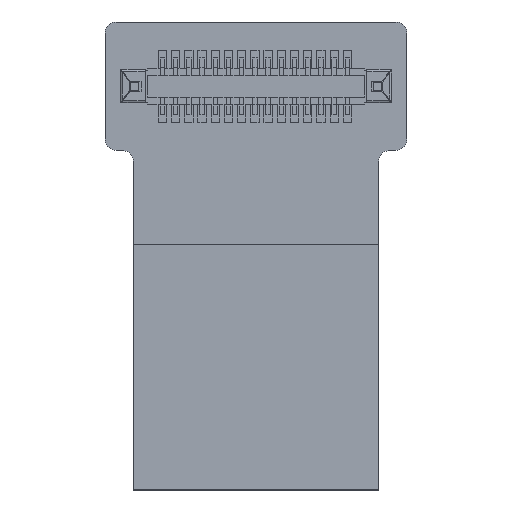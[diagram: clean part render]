
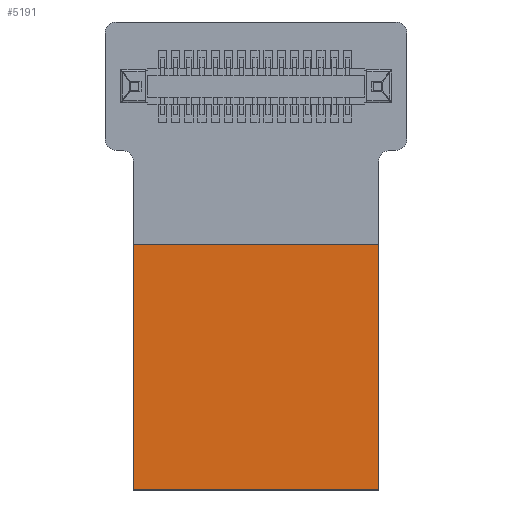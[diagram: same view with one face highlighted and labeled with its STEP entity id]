
A CAD part, front view. The second image highlights one B-rep face of the part: STEP entity #5191.
In plain terms, the highlighted planar face has unit normal (0, -1, 0).
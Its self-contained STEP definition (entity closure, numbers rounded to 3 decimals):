
#5076=DIRECTION('',(-1.,0.,0.));
#5077=VECTOR('',#5076,6.5);
#5078=CARTESIAN_POINT('',(3.25,-0.18,-3.25));
#5079=LINE('',#5078,#5077);
#5080=DIRECTION('',(0.,0.,1.));
#5081=VECTOR('',#5080,6.5);
#5082=CARTESIAN_POINT('',(-3.25,-0.18,-3.25));
#5083=LINE('',#5082,#5081);
#5084=DIRECTION('',(1.,0.,0.));
#5085=VECTOR('',#5084,6.5);
#5086=CARTESIAN_POINT('',(-3.25,-0.18,3.25));
#5087=LINE('',#5086,#5085);
#5088=DIRECTION('',(0.,0.,-1.));
#5089=VECTOR('',#5088,6.5);
#5090=CARTESIAN_POINT('',(3.25,-0.18,3.25));
#5091=LINE('',#5090,#5089);
#5100=CARTESIAN_POINT('',(-3.25,-0.18,-3.25));
#5101=VERTEX_POINT('',#5100);
#5102=CARTESIAN_POINT('',(3.25,-0.18,-3.25));
#5103=VERTEX_POINT('',#5102);
#5104=CARTESIAN_POINT('',(-3.25,-0.18,3.25));
#5105=VERTEX_POINT('',#5104);
#5106=CARTESIAN_POINT('',(3.25,-0.18,3.25));
#5107=VERTEX_POINT('',#5106);
#5180=CARTESIAN_POINT('',(0.,-0.18,0.));
#5181=DIRECTION('',(0.,1.,0.));
#5182=DIRECTION('',(0.,0.,-1.));
#5183=AXIS2_PLACEMENT_3D('',#5180,#5181,#5182);
#5184=PLANE('',#5183);
#5185=ORIENTED_EDGE('',*,*,#5132,.T.);
#5186=ORIENTED_EDGE('',*,*,#5147,.T.);
#5187=ORIENTED_EDGE('',*,*,#5161,.T.);
#5188=ORIENTED_EDGE('',*,*,#5174,.T.);
#5189=EDGE_LOOP('',(#5185,#5186,#5187,#5188));
#5190=FACE_OUTER_BOUND('',#5189,.F.);
#5191=ADVANCED_FACE('',(#5190),#5184,.F.);
#5132=EDGE_CURVE('',#5103,#5101,#5079,.T.);
#5147=EDGE_CURVE('',#5101,#5105,#5083,.T.);
#5161=EDGE_CURVE('',#5105,#5107,#5087,.T.);
#5174=EDGE_CURVE('',#5107,#5103,#5091,.T.);
